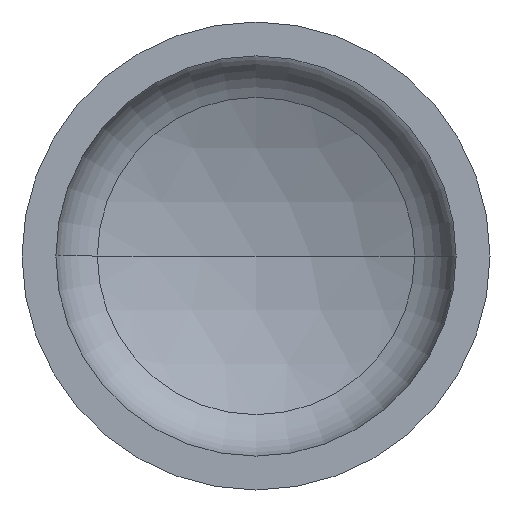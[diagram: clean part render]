
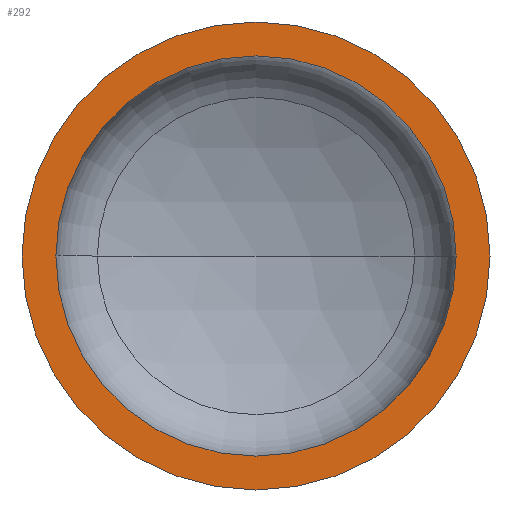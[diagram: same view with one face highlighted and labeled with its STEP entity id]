
A CAD part, front view. The second image highlights one B-rep face of the part: STEP entity #292.
In plain terms, the highlighted planar face has unit normal (0, -1, 0).
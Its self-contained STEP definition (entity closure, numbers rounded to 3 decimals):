
#9 = ORIENTED_EDGE ( 'NONE', *, *, #130, .T. ) ;
#25 = EDGE_LOOP ( 'NONE', ( #126, #9 ) ) ;
#26 = AXIS2_PLACEMENT_3D ( 'NONE', #47, #42, #55 ) ;
#42 = DIRECTION ( 'NONE',  ( 0., -1., 0. ) ) ;
#45 = ORIENTED_EDGE ( 'NONE', *, *, #133, .F. ) ;
#47 = CARTESIAN_POINT ( 'NONE',  ( 0., 0., 0. ) ) ;
#55 = DIRECTION ( 'NONE',  ( 1., 0., 0. ) ) ;
#58 = AXIS2_PLACEMENT_3D ( 'NONE', #165, #206, #220 ) ;
#66 = FACE_OUTER_BOUND ( 'NONE', #25, .T. ) ;
#70 = ORIENTED_EDGE ( 'NONE', *, *, #405, .F. ) ;
#80 = EDGE_LOOP ( 'NONE', ( #45, #70 ) ) ;
#103 = AXIS2_PLACEMENT_3D ( 'NONE', #341, #340, #336 ) ;
#104 = VERTEX_POINT ( 'NONE', #251 ) ;
#111 = AXIS2_PLACEMENT_3D ( 'NONE', #207, #210, #335 ) ;
#114 = VERTEX_POINT ( 'NONE', #351 ) ;
#123 = CIRCLE ( 'NONE', #111, 650. ) ;
#126 = ORIENTED_EDGE ( 'NONE', *, *, #359, .T. ) ;
#130 = EDGE_CURVE ( 'NONE', #171, #114, #123, .T. ) ;
#133 = EDGE_CURVE ( 'NONE', #140, #104, #393, .T. ) ;
#139 = DIRECTION ( 'NONE',  ( 1., 0., 0. ) ) ;
#140 = VERTEX_POINT ( 'NONE', #364 ) ;
#165 = CARTESIAN_POINT ( 'NONE',  ( -650., 0., 0. ) ) ;
#171 = VERTEX_POINT ( 'NONE', #283 ) ;
#175 = CARTESIAN_POINT ( 'NONE',  ( 0., 0., 0. ) ) ;
#178 = DIRECTION ( 'NONE',  ( 0., -1., 0. ) ) ;
#194 = PLANE ( 'NONE',  #58 ) ;
#206 = DIRECTION ( 'NONE',  ( 0., 1., 0. ) ) ;
#207 = CARTESIAN_POINT ( 'NONE',  ( 0., 0., 0. ) ) ;
#210 = DIRECTION ( 'NONE',  ( 0., -1., 0. ) ) ;
#220 = DIRECTION ( 'NONE',  ( -1., 0., 0. ) ) ;
#244 = CIRCLE ( 'NONE', #26, 650. ) ;
#251 = CARTESIAN_POINT ( 'NONE',  ( -556., 0., 0. ) ) ;
#270 = FACE_BOUND ( 'NONE', #80, .T. ) ;
#283 = CARTESIAN_POINT ( 'NONE',  ( -650., 0., 0. ) ) ;
#292 = ADVANCED_FACE ( 'NONE', ( #270, #66 ), #194, .F. ) ;
#335 = DIRECTION ( 'NONE',  ( 1., 0., 0. ) ) ;
#336 = DIRECTION ( 'NONE',  ( 1., 0., 0. ) ) ;
#340 = DIRECTION ( 'NONE',  ( 0., -1., 0. ) ) ;
#341 = CARTESIAN_POINT ( 'NONE',  ( 0., 0., 0. ) ) ;
#347 = CIRCLE ( 'NONE', #399, 556. ) ;
#351 = CARTESIAN_POINT ( 'NONE',  ( 650., 0., 0. ) ) ;
#359 = EDGE_CURVE ( 'NONE', #114, #171, #244, .T. ) ;
#364 = CARTESIAN_POINT ( 'NONE',  ( 556., 0., 0. ) ) ;
#393 = CIRCLE ( 'NONE', #103, 556. ) ;
#399 = AXIS2_PLACEMENT_3D ( 'NONE', #175, #178, #139 ) ;
#405 = EDGE_CURVE ( 'NONE', #104, #140, #347, .T. ) ;
